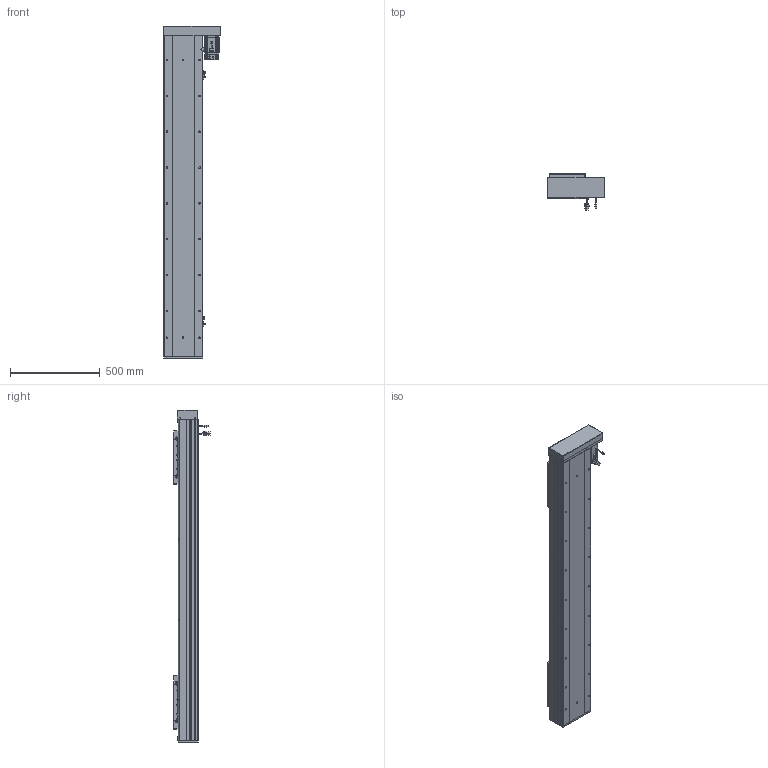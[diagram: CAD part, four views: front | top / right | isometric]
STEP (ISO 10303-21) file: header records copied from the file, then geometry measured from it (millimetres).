
FILE_DESCRIPTION (( 'STEP AP203' ), '1' );
FILE_NAME ('RY220F-L2525-800-RK-邧嶺.SLDASM_1350.step', '2022-08-06T08:19:25', ( '' ), ( '' ), 'SwSTEP 2.0', 'SolidWorks 2016', '' );
FILE_SCHEMA (( 'CONFIG_CONTROL_DESIGN' ));
Length unit declared in the file: millimetre
Products named in the file (15): 侐源滅袉蝶; RY220F綴裔啣; RY220F-672覜茼んえ; RY220F蛌殏菁釱-800-邧嶺_1350; RY220F-祥凄詩湍-蛌殏-800_1350; 滅袉蝶18-24; 怢湛750W_ECMA-CX0807ES; RY220F臏賑釱25-32佪裝; RY220F-詩湍揤踡輸; RY220酘衵殏萇儂欶; RY220F-滅鳥奻裔; RY220F-蛌殏奻裔啣-800_1350; 覜茼ん672; RY220左右折电机安装板; RY220F-L2525-800-RK-邧嶺.SLDASM_1350
Assembly tree (24 placements, depth 2):
  RY220F-L2525-800-RK-邧嶺.SLDASM_1350
    RY220F蛌殏菁釱-800-邧嶺_1350
    RY220F-蛌殏奻裔啣-800_1350  x2
    怢湛750W_ECMA-CX0807ES
    RY220F臏賑釱25-32佪裝  x2
    RY220F-滅鳥奻裔  x2
    滅袉蝶18-24  x3
    RY220F綴裔啣
    RY220F-祥凄詩湍-蛌殏-800_1350
    RY220F-詩湍揤踡輸  x2
    覜茼ん672  x3
    RY220F-672覜茼んえ  x2
    RY220左右折电机安装板
    RY220酘衵殏萇儂欶
    侐源滅袉蝶  x2
Bounding box: 317.5 x 205.27 x 1853 mm (x, y, z)
Volume: 16937686.2 mm3; surface area: 4470093.3 mm2
Topology: 25 solids, 25 shells, 2808 faces, 7632 edges, 4714 vertices
Faces by surface type: cylinder 1270, plane 1044, cone 423, bspline 45, sphere 16, torus 10
Entity records: 69772 total; most frequent: CARTESIAN_POINT 18823, ORIENTED_EDGE 10278, DIRECTION 10040, EDGE_CURVE 5139, AXIS2_PLACEMENT_3D 3582, VERTEX_POINT 3330, VECTOR 2876, LINE 2876
